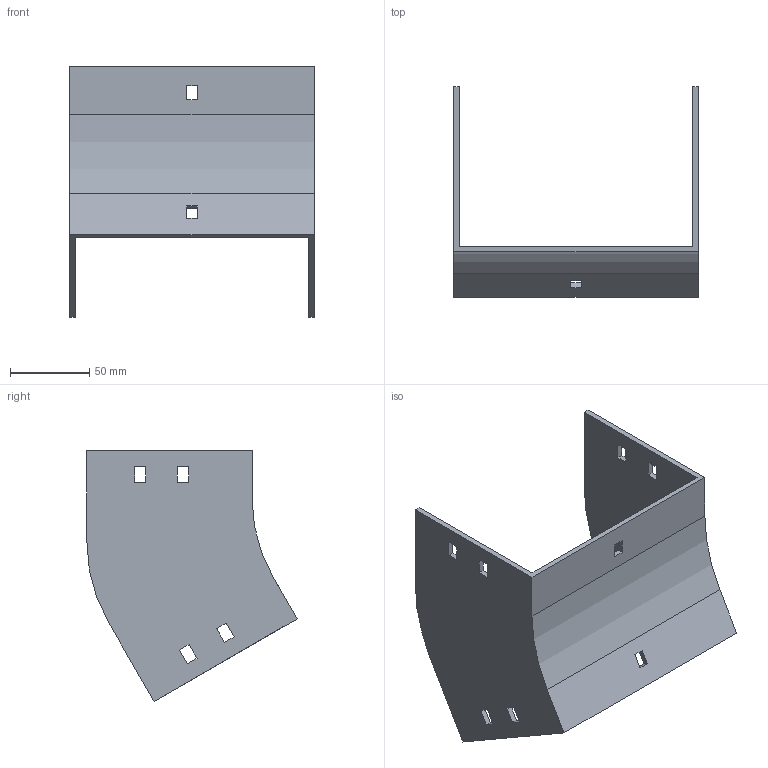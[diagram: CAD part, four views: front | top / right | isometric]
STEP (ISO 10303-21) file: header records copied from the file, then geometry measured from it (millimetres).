
FILE_DESCRIPTION (( 'STEP AP214' ), '1' );
FILE_NAME ('35F1D150.step', '2025-02-21T12:48:49', ( '' ), ( '' ), 'SwSTEP 2.0', 'SolidWorks 2023', '' );
FILE_SCHEMA (( 'AUTOMOTIVE_DESIGN' ));
Length unit declared in the file: millimetre
Products named in the file (1): 35F1D150
Bounding box: 154 x 132.4 x 157.98 mm (x, y, z)
Volume: 158891.5 mm3; surface area: 95619.4 mm2
Topology: 1 solids, 1 shells, 58 faces, 168 edges, 112 vertices
Faces by surface type: plane 54, cylinder 4
Entity records: 1943 total; most frequent: CARTESIAN_POINT 339, ORIENTED_EDGE 336, DIRECTION 294, EDGE_CURVE 168, VECTOR 160, LINE 160, VERTEX_POINT 112, EDGE_LOOP 78
